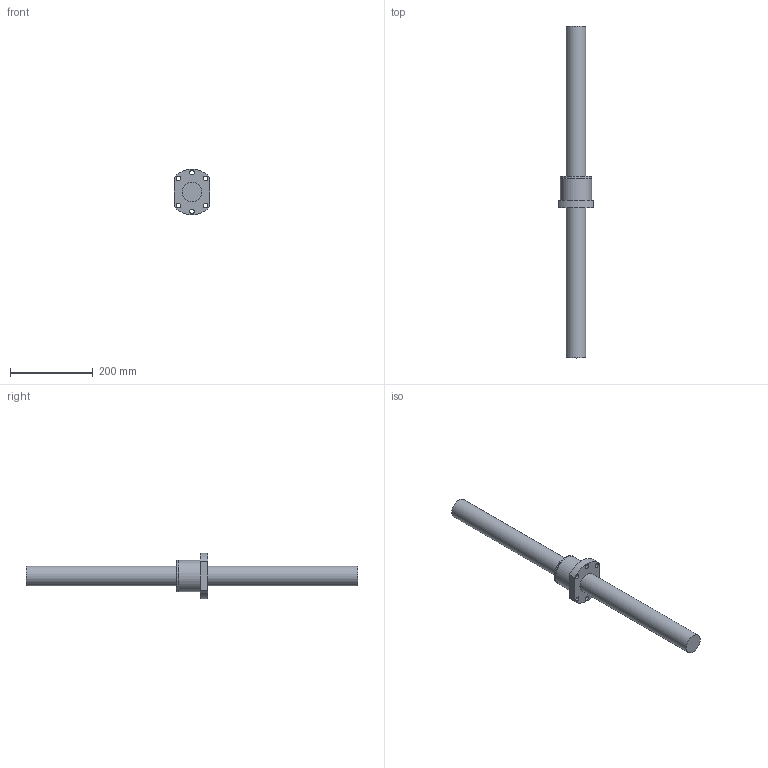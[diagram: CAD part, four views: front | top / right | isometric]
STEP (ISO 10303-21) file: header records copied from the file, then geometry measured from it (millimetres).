
FILE_DESCRIPTION(/* description */ (''),/* implementation_level */ '2;1');
FILE_NAME(/* name */ 'SFS05012.stp',/* time_stamp */ '2014-10-27T13:06:56+08:00',/* author */ (''),/* organization */ (''),/* preprocessor_version */ 'ST-DEVELOPER v11',/* originating_system */ 'SIEMENS UGS NX 6.0',/* authorisation */ '');
FILE_SCHEMA (('AUTOMOTIVE_DESIGN { 1 0 10303 214 1 1 1 1 }'));
Length unit declared in the file: millimetre
Products named in the file (1): SFS05012
Bounding box: 85 x 800 x 109.65 mm (x, y, z)
Volume: 1701963.9 mm3; surface area: 171199.4 mm2
Topology: 2 solids, 2 shells, 23 faces, 58 edges, 40 vertices
Faces by surface type: cylinder 13, plane 7, torus 3
Full cylindrical faces by diameter (mm): 6.5 x1, 11 x6, 48 x2, 75 x2
Entity records: 739 total; most frequent: CARTESIAN_POINT 206, DIRECTION 108, ORIENTED_EDGE 72, EDGE_LOOP 54, AXIS2_PLACEMENT_3D 50, FACE_BOUND 49, EDGE_CURVE 36, VERTEX_POINT 32
